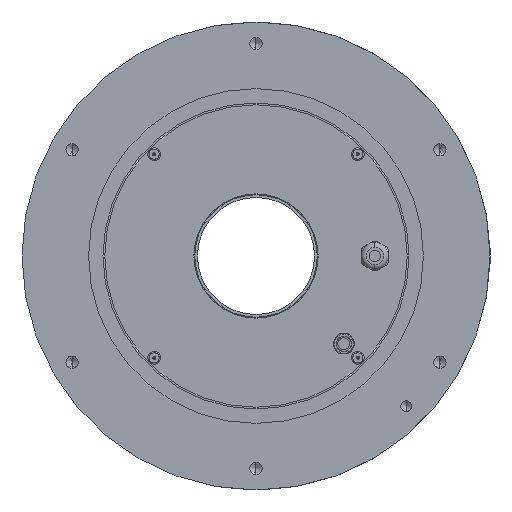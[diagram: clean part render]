
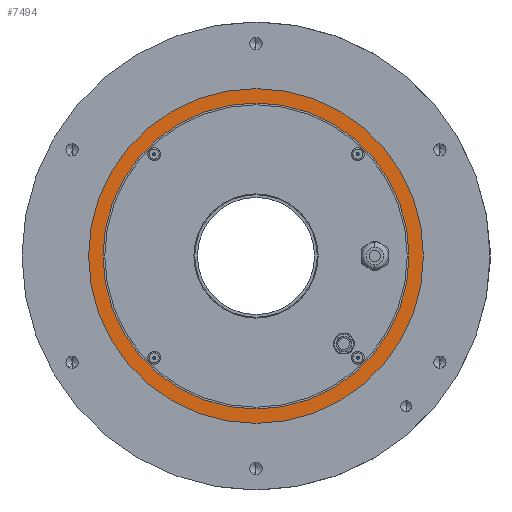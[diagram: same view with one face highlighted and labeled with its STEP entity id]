
A CAD part, front view. The second image highlights one B-rep face of the part: STEP entity #7494.
In plain terms, the highlighted planar face has unit normal (0, -1, 0).
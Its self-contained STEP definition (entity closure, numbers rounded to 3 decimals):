
#13 = DIRECTION ( 'NONE',  ( 0., 0., -1. ) ) ;
#1198 = FACE_BOUND ( 'NONE', #6306, .T. ) ;
#2697 = CIRCLE ( 'NONE', #15291, 85. ) ;
#4014 = AXIS2_PLACEMENT_3D ( 'NONE', #14099, #5551, #13982 ) ;
#4266 = DIRECTION ( 'NONE',  ( 0., 0., -1. ) ) ;
#4693 = CARTESIAN_POINT ( 'NONE',  ( 0., -3., 0. ) ) ;
#5387 = EDGE_CURVE ( 'NONE', #15746, #21371, #21240, .T. ) ;
#5551 = DIRECTION ( 'NONE',  ( 0., -1., 0. ) ) ;
#5908 = CARTESIAN_POINT ( 'NONE',  ( 0., -3., 93. ) ) ;
#6306 = EDGE_LOOP ( 'NONE', ( #18469, #10650 ) ) ;
#7494 = ADVANCED_FACE ( 'NONE', ( #1198, #20132 ), #12751, .T. ) ;
#8611 = DIRECTION ( 'NONE',  ( 0., 0., -1. ) ) ;
#8681 = VERTEX_POINT ( 'NONE', #5908 ) ;
#8707 = DIRECTION ( 'NONE',  ( 0., -1., 0. ) ) ;
#9369 = ORIENTED_EDGE ( 'NONE', *, *, #14457, .T. ) ;
#10039 = ORIENTED_EDGE ( 'NONE', *, *, #17394, .T. ) ;
#10203 = DIRECTION ( 'NONE',  ( 0., -1., 0. ) ) ;
#10650 = ORIENTED_EDGE ( 'NONE', *, *, #5387, .F. ) ;
#10916 = DIRECTION ( 'NONE',  ( 0., -1., 0. ) ) ;
#12328 = CARTESIAN_POINT ( 'NONE',  ( 0., -3., 0. ) ) ;
#12751 = PLANE ( 'NONE',  #13044 ) ;
#13044 = AXIS2_PLACEMENT_3D ( 'NONE', #21922, #21309, #13372 ) ;
#13372 = DIRECTION ( 'NONE',  ( 0., 0., -1. ) ) ;
#13982 = DIRECTION ( 'NONE',  ( 0., 0., -1. ) ) ;
#14099 = CARTESIAN_POINT ( 'NONE',  ( 0., -3., 0. ) ) ;
#14457 = EDGE_CURVE ( 'NONE', #8681, #14919, #19953, .T. ) ;
#14560 = AXIS2_PLACEMENT_3D ( 'NONE', #4693, #10203, #8611 ) ;
#14902 = EDGE_CURVE ( 'NONE', #21371, #15746, #2697, .T. ) ;
#14919 = VERTEX_POINT ( 'NONE', #20775 ) ;
#15291 = AXIS2_PLACEMENT_3D ( 'NONE', #12328, #8707, #13 ) ;
#15706 = EDGE_LOOP ( 'NONE', ( #9369, #10039 ) ) ;
#15746 = VERTEX_POINT ( 'NONE', #20244 ) ;
#15912 = CARTESIAN_POINT ( 'NONE',  ( 0., -3., -85. ) ) ;
#17394 = EDGE_CURVE ( 'NONE', #14919, #8681, #19116, .T. ) ;
#17663 = AXIS2_PLACEMENT_3D ( 'NONE', #21402, #10916, #4266 ) ;
#18469 = ORIENTED_EDGE ( 'NONE', *, *, #14902, .F. ) ;
#19116 = CIRCLE ( 'NONE', #4014, 93. ) ;
#19953 = CIRCLE ( 'NONE', #14560, 93. ) ;
#20132 = FACE_OUTER_BOUND ( 'NONE', #15706, .T. ) ;
#20244 = CARTESIAN_POINT ( 'NONE',  ( 0., -3., 85. ) ) ;
#20775 = CARTESIAN_POINT ( 'NONE',  ( 0., -3., -93. ) ) ;
#21240 = CIRCLE ( 'NONE', #17663, 85. ) ;
#21309 = DIRECTION ( 'NONE',  ( 0., -1., 0. ) ) ;
#21371 = VERTEX_POINT ( 'NONE', #15912 ) ;
#21402 = CARTESIAN_POINT ( 'NONE',  ( 0., -3., 0. ) ) ;
#21922 = CARTESIAN_POINT ( 'NONE',  ( 0., -3., 0. ) ) ;
